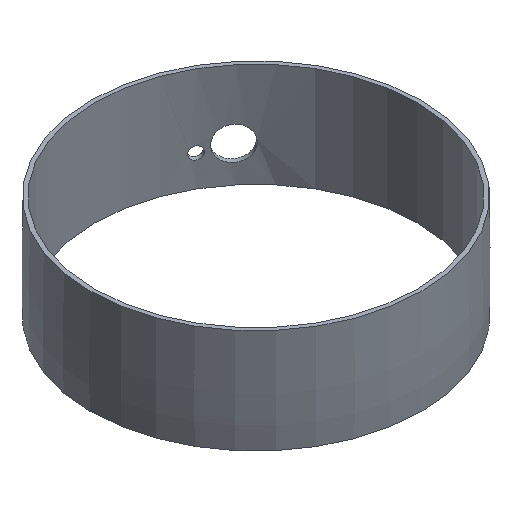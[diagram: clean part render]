
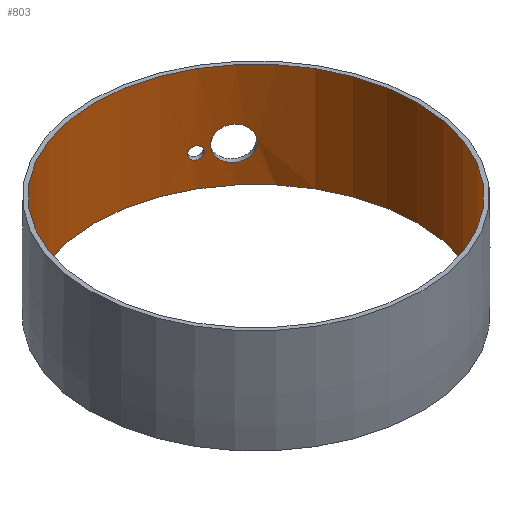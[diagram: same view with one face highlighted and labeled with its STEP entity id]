
A CAD part, isometric view. The second image highlights one B-rep face of the part: STEP entity #803.
In plain terms, the highlighted cylindrical face has radius 13.17 mm (diameter 26.34 mm), a full revolution.
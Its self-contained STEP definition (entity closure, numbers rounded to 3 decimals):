
#652 = EDGE_CURVE('',#653,#653,#655,.T.);
#653 = VERTEX_POINT('',#654);
#654 = CARTESIAN_POINT('',(13.17,0.,-4.25));
#655 = CIRCLE('',#656,13.17);
#656 = AXIS2_PLACEMENT_3D('',#657,#658,#659);
#657 = CARTESIAN_POINT('',(0.,0.,-4.25));
#658 = DIRECTION('',(0.,0.,1.));
#659 = DIRECTION('',(1.,0.,0.));
#672 = EDGE_CURVE('',#673,#673,#675,.T.);
#673 = VERTEX_POINT('',#674);
#674 = CARTESIAN_POINT('',(13.17,0.,4.25));
#675 = CIRCLE('',#676,13.17);
#676 = AXIS2_PLACEMENT_3D('',#677,#678,#679);
#677 = CARTESIAN_POINT('',(0.,0.,4.25));
#678 = DIRECTION('',(0.,0.,1.));
#679 = DIRECTION('',(1.,0.,0.));
#691 = VERTEX_POINT('',#692);
#692 = CARTESIAN_POINT('',(9.364,9.261,-1.3));
#698 = EDGE_CURVE('',#691,#691,#699,.T.);
#699 = B_SPLINE_CURVE_WITH_KNOTS('',7,(#700,#701,#702,#703,#704,#705,
    #706,#707,#708,#709,#710,#711,#712,#713,#714,#715,#716,#717,#718,
    #719,#720,#721,#722,#723,#724,#725,#726,#727,#728,#729,#730,#731,
    #732,#733,#734,#735,#736,#737,#738,#739,#740,#741,#742,#743),
  .UNSPECIFIED.,.T.,.F.,(8,6,6,6,6,6,6,8),(0.,0.152,
    0.287,0.424,0.587,0.713,
    0.839,1.),.UNSPECIFIED.);
#700 = CARTESIAN_POINT('',(9.364,9.261,-1.3));
#701 = CARTESIAN_POINT('',(9.364,9.261,-1.462)
  );
#702 = CARTESIAN_POINT('',(9.348,9.277,-1.625
    ));
#703 = CARTESIAN_POINT('',(9.315,9.31,-1.785
    ));
#704 = CARTESIAN_POINT('',(9.266,9.359,-1.94
    ));
#705 = CARTESIAN_POINT('',(9.2,9.425,-2.087
    ));
#706 = CARTESIAN_POINT('',(9.114,9.508,-2.223
    ));
#707 = CARTESIAN_POINT('',(8.917,9.693,-2.445
    ));
#708 = CARTESIAN_POINT('',(8.805,9.796,-2.539
    ));
#709 = CARTESIAN_POINT('',(8.677,9.91,-2.612
    ));
#710 = CARTESIAN_POINT('',(8.537,10.032,
    -2.658));
#711 = CARTESIAN_POINT('',(8.389,10.155,-2.672)
  );
#712 = CARTESIAN_POINT('',(8.241,10.275,
    -2.654));
#713 = CARTESIAN_POINT('',(7.954,10.498,-2.561
    ));
#714 = CARTESIAN_POINT('',(7.821,10.599,
    -2.486));
#715 = CARTESIAN_POINT('',(7.7,10.686,
    -2.389));
#716 = CARTESIAN_POINT('',(7.595,10.76,
    -2.275));
#717 = CARTESIAN_POINT('',(7.507,10.822,
    -2.148));
#718 = CARTESIAN_POINT('',(7.436,10.87,
    -2.014));
#719 = CARTESIAN_POINT('',(7.317,10.95,
    -1.709));
#720 = CARTESIAN_POINT('',(7.275,10.978,
    -1.533));
#721 = CARTESIAN_POINT('',(7.256,10.991,-1.351
    ));
#722 = CARTESIAN_POINT('',(7.26,10.988,
    -1.167));
#723 = CARTESIAN_POINT('',(7.289,10.97,
    -0.986));
#724 = CARTESIAN_POINT('',(7.34,10.935,-0.812
    ));
#725 = CARTESIAN_POINT('',(7.471,10.846,
    -0.524));
#726 = CARTESIAN_POINT('',(7.542,10.797,-0.403
    ));
#727 = CARTESIAN_POINT('',(7.628,10.737,
    -0.29));
#728 = CARTESIAN_POINT('',(7.729,10.666,
    -0.189));
#729 = CARTESIAN_POINT('',(7.842,10.583,
    -0.102));
#730 = CARTESIAN_POINT('',(7.966,10.489,
    -0.036));
#731 = CARTESIAN_POINT('',(8.23,10.283,
    0.051));
#732 = CARTESIAN_POINT('',(8.368,10.173,
    0.069));
#733 = CARTESIAN_POINT('',(8.505,10.059,
    0.06));
#734 = CARTESIAN_POINT('',(8.637,9.945,
    0.024));
#735 = CARTESIAN_POINT('',(8.759,9.837,
    -0.036));
#736 = CARTESIAN_POINT('',(8.868,9.738,-0.116
    ));
#737 = CARTESIAN_POINT('',(9.08,9.541,-0.325
    ));
#738 = CARTESIAN_POINT('',(9.177,9.448,-0.465
    ));
#739 = CARTESIAN_POINT('',(9.253,9.373,-0.62
    ));
#740 = CARTESIAN_POINT('',(9.309,9.317,-0.784)
  );
#741 = CARTESIAN_POINT('',(9.346,9.28,-0.954
    ));
#742 = CARTESIAN_POINT('',(9.364,9.261,-1.127)
  );
#743 = CARTESIAN_POINT('',(9.364,9.261,-1.3));
#757 = VERTEX_POINT('',#758);
#758 = CARTESIAN_POINT('',(6.968,11.175,-1.7));
#764 = EDGE_CURVE('',#757,#757,#765,.T.);
#765 = B_SPLINE_CURVE_WITH_KNOTS('',8,(#766,#767,#768,#769,#770,#771,
    #772,#773,#774,#775,#776,#777,#778,#779,#780,#781,#782,#783,#784,
    #785,#786,#787,#788,#789,#790,#791,#792,#793,#794,#795),
  .UNSPECIFIED.,.T.,.F.,(9,7,7,7,9),(0.,0.25,0.5,
    0.75,1.),.UNSPECIFIED.);
#766 = CARTESIAN_POINT('',(6.968,11.175,-1.7));
#767 = CARTESIAN_POINT('',(6.968,11.175,
    -1.793));
#768 = CARTESIAN_POINT('',(6.952,11.186,
    -1.888));
#769 = CARTESIAN_POINT('',(6.917,11.208,
    -1.979));
#770 = CARTESIAN_POINT('',(6.865,11.24,
    -2.06));
#771 = CARTESIAN_POINT('',(6.797,11.281,
    -2.127));
#772 = CARTESIAN_POINT('',(6.717,11.329,
    -2.175));
#773 = CARTESIAN_POINT('',(6.628,11.381,-2.2));
#774 = CARTESIAN_POINT('',(6.446,11.485,-2.2));
#775 = CARTESIAN_POINT('',(6.356,11.535,
    -2.175));
#776 = CARTESIAN_POINT('',(6.274,11.58,
    -2.127));
#777 = CARTESIAN_POINT('',(6.204,11.618,-2.061
    ));
#778 = CARTESIAN_POINT('',(6.149,11.647,-1.979
    ));
#779 = CARTESIAN_POINT('',(6.112,11.666,-1.888
    ));
#780 = CARTESIAN_POINT('',(6.095,11.675,-1.793
    ));
#781 = CARTESIAN_POINT('',(6.095,11.675,-1.607
    ));
#782 = CARTESIAN_POINT('',(6.112,11.666,-1.512
    ));
#783 = CARTESIAN_POINT('',(6.149,11.647,-1.421
    ));
#784 = CARTESIAN_POINT('',(6.204,11.618,-1.339)
  );
#785 = CARTESIAN_POINT('',(6.274,11.58,-1.273
    ));
#786 = CARTESIAN_POINT('',(6.356,11.535,
    -1.225));
#787 = CARTESIAN_POINT('',(6.446,11.485,-1.2));
#788 = CARTESIAN_POINT('',(6.628,11.381,-1.2));
#789 = CARTESIAN_POINT('',(6.717,11.329,
    -1.225));
#790 = CARTESIAN_POINT('',(6.797,11.281,
    -1.273));
#791 = CARTESIAN_POINT('',(6.865,11.24,
    -1.34));
#792 = CARTESIAN_POINT('',(6.917,11.208,
    -1.421));
#793 = CARTESIAN_POINT('',(6.952,11.186,
    -1.512));
#794 = CARTESIAN_POINT('',(6.968,11.175,
    -1.607));
#795 = CARTESIAN_POINT('',(6.968,11.175,-1.7));
#803 = ADVANCED_FACE('',(#804,#815,#818),#821,.F.);
#804 = FACE_BOUND('',#805,.F.);
#805 = EDGE_LOOP('',(#806,#807,#813,#814));
#806 = ORIENTED_EDGE('',*,*,#652,.T.);
#807 = ORIENTED_EDGE('',*,*,#808,.T.);
#808 = EDGE_CURVE('',#653,#673,#809,.T.);
#809 = LINE('',#810,#811);
#810 = CARTESIAN_POINT('',(13.17,0.,-5.1));
#811 = VECTOR('',#812,1.);
#812 = DIRECTION('',(0.,0.,1.));
#813 = ORIENTED_EDGE('',*,*,#672,.F.);
#814 = ORIENTED_EDGE('',*,*,#808,.F.);
#815 = FACE_BOUND('',#816,.F.);
#816 = EDGE_LOOP('',(#817));
#817 = ORIENTED_EDGE('',*,*,#764,.F.);
#818 = FACE_BOUND('',#819,.F.);
#819 = EDGE_LOOP('',(#820));
#820 = ORIENTED_EDGE('',*,*,#698,.F.);
#821 = CYLINDRICAL_SURFACE('',#822,13.17);
#822 = AXIS2_PLACEMENT_3D('',#823,#824,#825);
#823 = CARTESIAN_POINT('',(0.,0.,-5.1));
#824 = DIRECTION('',(0.,0.,1.));
#825 = DIRECTION('',(1.,0.,0.));
